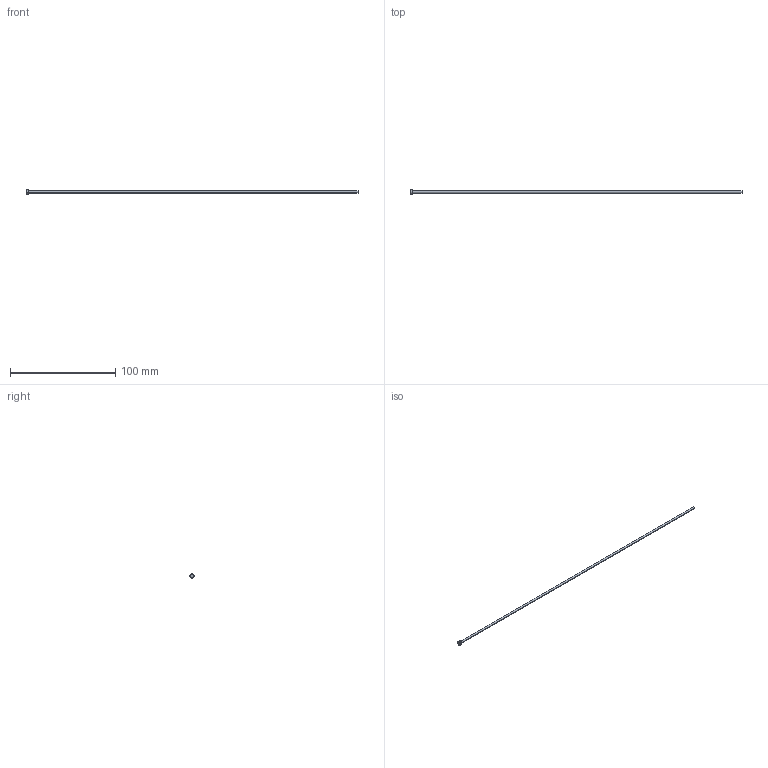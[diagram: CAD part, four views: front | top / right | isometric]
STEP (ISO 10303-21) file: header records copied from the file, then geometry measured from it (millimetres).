
FILE_DESCRIPTION (( 'STEP AP214' ), '1' );
FILE_NAME ('A-2x315.STEP', '2020-05-28T17:24:59', ( 'August' ), ( '' ), 'SwSTEP 2.0', 'SolidWorks 2018', '' );
FILE_SCHEMA (( 'AUTOMOTIVE_DESIGN' ));
Length unit declared in the file: millimetre
Products named in the file (1): A-2x315
Bounding box: 315 x 4 x 4 mm (x, y, z)
Volume: 1008.5 mm3; surface area: 2016.4 mm2
Topology: 1 solids, 1 shells, 9 faces, 16 edges, 10 vertices
Faces by surface type: cylinder 4, plane 3, torus 2
Entity records: 260 total; most frequent: DIRECTION 48, CARTESIAN_POINT 36, ORIENTED_EDGE 32, AXIS2_PLACEMENT_3D 22, EDGE_CURVE 16, CIRCLE 12, EDGE_LOOP 10, VERTEX_POINT 10
